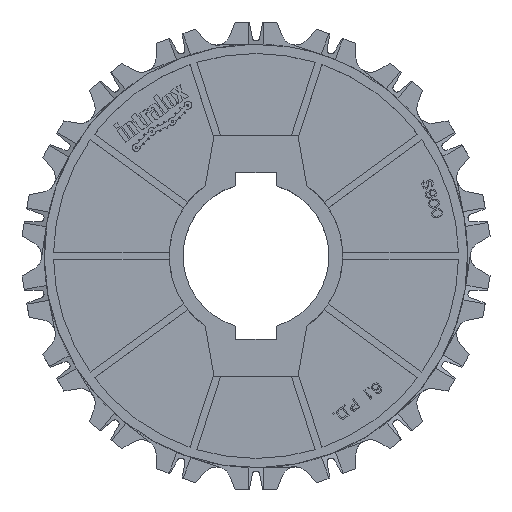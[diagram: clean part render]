
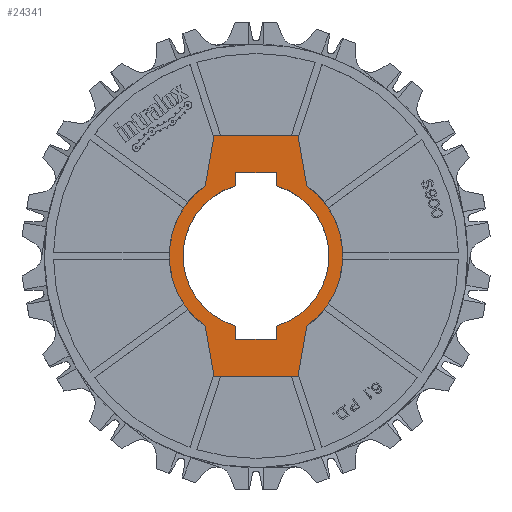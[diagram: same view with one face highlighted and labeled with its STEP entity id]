
A CAD part, top view. The second image highlights one B-rep face of the part: STEP entity #24341.
In plain terms, the highlighted planar face has unit normal (0, 0, 1).
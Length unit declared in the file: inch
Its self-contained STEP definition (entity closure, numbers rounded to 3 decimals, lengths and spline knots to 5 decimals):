
#7314=DIRECTION('',(-0.174,-0.985,0.));
#7315=VECTOR('',#7314,0.68632);
#7316=CARTESIAN_POINT('',(-0.565,1.625,0.74));
#7317=LINE('',#7316,#7315);
#7318=DIRECTION('',(-1.,0.,0.));
#7319=VECTOR('',#7318,1.13);
#7320=CARTESIAN_POINT('',(0.565,1.625,0.74));
#7321=LINE('',#7320,#7319);
#7322=DIRECTION('',(-0.174,0.985,0.));
#7323=VECTOR('',#7322,0.68632);
#7324=CARTESIAN_POINT('',(0.68418,0.9491,0.74));
#7325=LINE('',#7324,#7323);
#7326=CARTESIAN_POINT('',(0.,0.,0.74));
#7327=DIRECTION('',(0.,0.,1.));
#7328=DIRECTION('',(0.585,-0.811,0.));
#7329=AXIS2_PLACEMENT_3D('',#7326,#7327,#7328);
#7331=DIRECTION('',(0.174,0.985,0.));
#7332=VECTOR('',#7331,0.68632);
#7333=CARTESIAN_POINT('',(0.565,-1.625,0.74));
#7334=LINE('',#7333,#7332);
#7335=DIRECTION('',(1.,0.,0.));
#7336=VECTOR('',#7335,1.13);
#7337=CARTESIAN_POINT('',(-0.565,-1.625,0.74));
#7338=LINE('',#7337,#7336);
#7339=DIRECTION('',(0.174,-0.985,0.));
#7340=VECTOR('',#7339,0.68632);
#7341=CARTESIAN_POINT('',(-0.68418,-0.9491,0.74));
#7342=LINE('',#7341,#7340);
#7343=CARTESIAN_POINT('',(0.,0.,0.74));
#7344=DIRECTION('',(0.,0.,1.));
#7345=DIRECTION('',(-0.585,0.811,0.));
#7346=AXIS2_PLACEMENT_3D('',#7343,#7344,#7345);
#7348=DIRECTION('',(0.,-1.,0.));
#7349=VECTOR('',#7348,0.177);
#7350=CARTESIAN_POINT('',(-0.2755,1.12217,0.74));
#7351=LINE('',#7350,#7349);
#7352=CARTESIAN_POINT('',(0.,0.,0.74));
#7353=DIRECTION('',(0.,0.,1.));
#7354=DIRECTION('',(-0.28,0.96,0.));
#7355=AXIS2_PLACEMENT_3D('',#7352,#7353,#7354);
#7357=DIRECTION('',(0.,-1.,0.));
#7358=VECTOR('',#7357,0.177);
#7359=CARTESIAN_POINT('',(-0.2755,-0.94517,0.74));
#7360=LINE('',#7359,#7358);
#7361=DIRECTION('',(1.,0.,0.));
#7362=VECTOR('',#7361,0.551);
#7363=CARTESIAN_POINT('',(-0.2755,-1.12217,0.74));
#7364=LINE('',#7363,#7362);
#7365=DIRECTION('',(0.,1.,0.));
#7366=VECTOR('',#7365,0.177);
#7367=CARTESIAN_POINT('',(0.2755,-1.12217,0.74));
#7368=LINE('',#7367,#7366);
#7369=CARTESIAN_POINT('',(0.,0.,0.74));
#7370=DIRECTION('',(0.,0.,1.));
#7371=DIRECTION('',(0.28,-0.96,0.));
#7372=AXIS2_PLACEMENT_3D('',#7369,#7370,#7371);
#7374=DIRECTION('',(0.,1.,0.));
#7375=VECTOR('',#7374,0.177);
#7376=CARTESIAN_POINT('',(0.2755,0.94517,0.74));
#7377=LINE('',#7376,#7375);
#7378=DIRECTION('',(-1.,0.,0.));
#7379=VECTOR('',#7378,0.551);
#7380=CARTESIAN_POINT('',(0.2755,1.12217,0.74));
#7381=LINE('',#7380,#7379);
#15558=CARTESIAN_POINT('',(-0.68418,0.9491,0.74));
#15559=CARTESIAN_POINT('',(-0.68418,-0.9491,0.74));
#15560=VERTEX_POINT('',#15558);
#15561=VERTEX_POINT('',#15559);
#15562=CARTESIAN_POINT('',(-0.565,-1.625,0.74));
#15563=CARTESIAN_POINT('',(0.565,-1.625,0.74));
#15564=VERTEX_POINT('',#15562);
#15565=VERTEX_POINT('',#15563);
#15566=CARTESIAN_POINT('',(0.68418,-0.9491,0.74));
#15567=CARTESIAN_POINT('',(0.68418,0.9491,0.74));
#15568=VERTEX_POINT('',#15566);
#15569=VERTEX_POINT('',#15567);
#15570=CARTESIAN_POINT('',(0.565,1.625,0.74));
#15571=CARTESIAN_POINT('',(-0.565,1.625,0.74));
#15572=VERTEX_POINT('',#15570);
#15573=VERTEX_POINT('',#15571);
#15934=CARTESIAN_POINT('',(-0.2755,1.12217,0.74));
#15935=CARTESIAN_POINT('',(-0.2755,0.94517,0.74));
#15936=VERTEX_POINT('',#15934);
#15937=VERTEX_POINT('',#15935);
#15938=CARTESIAN_POINT('',(-0.2755,-0.94517,0.74));
#15939=VERTEX_POINT('',#15938);
#15940=CARTESIAN_POINT('',(-0.2755,-1.12217,0.74));
#15941=VERTEX_POINT('',#15940);
#15942=CARTESIAN_POINT('',(0.2755,-1.12217,0.74));
#15943=VERTEX_POINT('',#15942);
#15944=CARTESIAN_POINT('',(0.2755,-0.94517,0.74));
#15945=VERTEX_POINT('',#15944);
#15946=CARTESIAN_POINT('',(0.2755,0.94517,0.74));
#15947=VERTEX_POINT('',#15946);
#15948=CARTESIAN_POINT('',(0.2755,1.12217,0.74));
#15949=VERTEX_POINT('',#15948);
#24316=CARTESIAN_POINT('',(0.,0.,0.74));
#24317=DIRECTION('',(0.,0.,1.));
#24318=DIRECTION('',(1.,0.,0.));
#24319=AXIS2_PLACEMENT_3D('',#24316,#24317,#24318);
#24320=PLANE('',#24319);
#24321=ORIENTED_EDGE('',*,*,#22107,.F.);
#24322=ORIENTED_EDGE('',*,*,#21684,.F.);
#24323=ORIENTED_EDGE('',*,*,#24164,.F.);
#24324=ORIENTED_EDGE('',*,*,#23888,.F.);
#24325=ORIENTED_EDGE('',*,*,#23760,.F.);
#24326=ORIENTED_EDGE('',*,*,#23647,.F.);
#24327=ORIENTED_EDGE('',*,*,#23613,.F.);
#24328=ORIENTED_EDGE('',*,*,#21843,.F.);
#24329=EDGE_LOOP('',(#24321,#24322,#24323,#24324,#24325,#24326,#24327,#24328));
#24330=FACE_OUTER_BOUND('',#24329,.F.);
#24331=ORIENTED_EDGE('',*,*,#24212,.T.);
#24332=ORIENTED_EDGE('',*,*,#24227,.T.);
#24333=ORIENTED_EDGE('',*,*,#24241,.T.);
#24334=ORIENTED_EDGE('',*,*,#24255,.T.);
#24335=ORIENTED_EDGE('',*,*,#24269,.T.);
#24336=ORIENTED_EDGE('',*,*,#24283,.T.);
#24337=ORIENTED_EDGE('',*,*,#24297,.T.);
#24338=ORIENTED_EDGE('',*,*,#24310,.T.);
#24339=EDGE_LOOP('',(#24331,#24332,#24333,#24334,#24335,#24336,#24337,#24338));
#24340=FACE_BOUND('',#24339,.F.);
#24341=ADVANCED_FACE('',(#24330,#24340),#24320,.T.);
#7330=CIRCLE('',#7329,1.17);
#7347=CIRCLE('',#7346,1.17);
#7356=CIRCLE('',#7355,0.9845);
#7373=CIRCLE('',#7372,0.9845);
#21684=EDGE_CURVE('',#15572,#15573,#7321,.T.);
#21843=EDGE_CURVE('',#15560,#15561,#7347,.T.);
#22107=EDGE_CURVE('',#15573,#15560,#7317,.T.);
#23613=EDGE_CURVE('',#15561,#15564,#7342,.T.);
#23647=EDGE_CURVE('',#15564,#15565,#7338,.T.);
#23760=EDGE_CURVE('',#15565,#15568,#7334,.T.);
#23888=EDGE_CURVE('',#15568,#15569,#7330,.T.);
#24164=EDGE_CURVE('',#15569,#15572,#7325,.T.);
#24212=EDGE_CURVE('',#15936,#15937,#7351,.T.);
#24227=EDGE_CURVE('',#15937,#15939,#7356,.T.);
#24241=EDGE_CURVE('',#15939,#15941,#7360,.T.);
#24255=EDGE_CURVE('',#15941,#15943,#7364,.T.);
#24269=EDGE_CURVE('',#15943,#15945,#7368,.T.);
#24283=EDGE_CURVE('',#15945,#15947,#7373,.T.);
#24297=EDGE_CURVE('',#15947,#15949,#7377,.T.);
#24310=EDGE_CURVE('',#15949,#15936,#7381,.T.);
